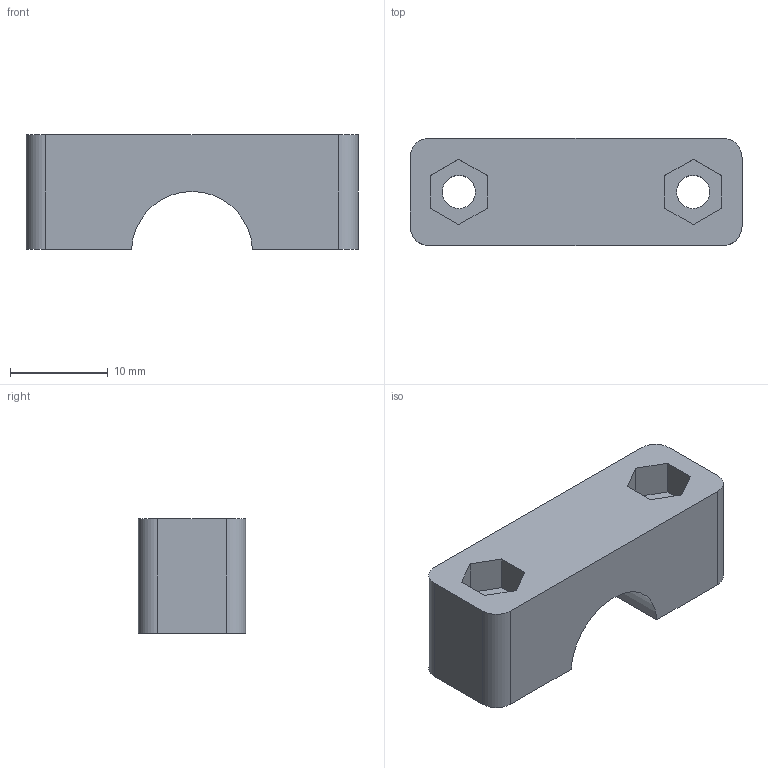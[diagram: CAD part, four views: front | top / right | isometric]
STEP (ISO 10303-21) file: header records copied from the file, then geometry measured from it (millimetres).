
FILE_DESCRIPTION(('FreeCAD Model'),'2;1');
FILE_NAME('Open CASCADE Shape Model','2026-10-26T18:20:28',('FreeCAD'),( 'FreeCAD'),'Open CASCADE STEP processor 7.8','FreeCAD','Unknown');
FILE_SCHEMA(('AUTOMOTIVE_DESIGN { 1 0 10303 214 1 1 1 1 }'));
Length unit declared in the file: millimetre
Products named in the file (1): Open CASCADE STEP translator 7.8 4
Bounding box: 34 x 11 x 11.7 mm (x, y, z)
Volume: 3355.5 mm3; surface area: 1993.4 mm2
Topology: 1 solids, 1 shells, 28 faces, 74 edges, 50 vertices
Faces by surface type: plane 21, cylinder 7
Full cylindrical faces by diameter (mm): 3.4 x2
Entity records: 888 total; most frequent: CARTESIAN_POINT 153, DIRECTION 148, ORIENTED_EDGE 148, EDGE_CURVE 74, LINE 58, VECTOR 58, VERTEX_POINT 50, AXIS2_PLACEMENT_3D 45
